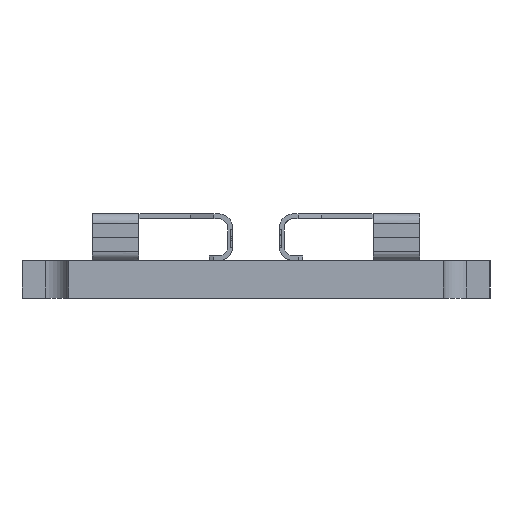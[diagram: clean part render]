
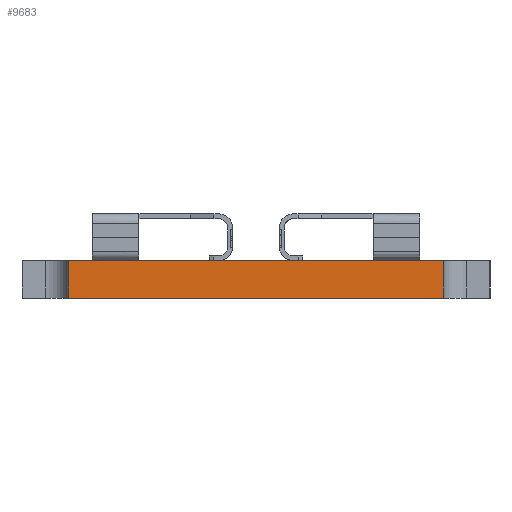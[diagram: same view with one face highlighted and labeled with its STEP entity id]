
A CAD part, left-side view. The second image highlights one B-rep face of the part: STEP entity #9683.
In plain terms, the highlighted planar face has unit normal (-1, 0, 0).
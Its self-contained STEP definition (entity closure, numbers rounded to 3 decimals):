
#9675=AXIS2_PLACEMENT_3D('Plane Axis2P3D',#9672,#9673,#9674) ;
#479=CARTESIAN_POINT('Vertex',(-9.6,-8.,-1.6)) ;
#482=CARTESIAN_POINT('Line Origine',(-9.6,0.,-1.6)) ;
#486=CARTESIAN_POINT('Vertex',(-9.6,8.,-1.6)) ;
#1460=CARTESIAN_POINT('Line Origine',(-9.6,8.,-0.8)) ;
#1464=CARTESIAN_POINT('Vertex',(-9.6,8.,0.)) ;
#1495=CARTESIAN_POINT('Vertex',(-9.6,-8.,0.)) ;
#1498=CARTESIAN_POINT('Line Origine',(-9.6,-8.,-0.8)) ;
#3692=CARTESIAN_POINT('Line Origine',(-9.6,0.,0.)) ;
#9672=CARTESIAN_POINT('Axis2P3D Location',(-9.6,10.,0.)) ;
#483=DIRECTION('Vector Direction',(0.,-1.,0.)) ;
#1461=DIRECTION('Vector Direction',(0.,0.,1.)) ;
#1499=DIRECTION('Vector Direction',(0.,0.,1.)) ;
#3693=DIRECTION('Vector Direction',(0.,-1.,0.)) ;
#9673=DIRECTION('Axis2P3D Direction',(1.,0.,0.)) ;
#9674=DIRECTION('Axis2P3D XDirection',(0.,-1.,0.)) ;
#484=VECTOR('Line Direction',#483,1.) ;
#1462=VECTOR('Line Direction',#1461,1.) ;
#1500=VECTOR('Line Direction',#1499,1.) ;
#3694=VECTOR('Line Direction',#3693,1.) ;
#9678=ORIENTED_EDGE('',*,*,#3696,.F.) ;
#9679=ORIENTED_EDGE('',*,*,#1466,.F.) ;
#9680=ORIENTED_EDGE('',*,*,#488,.T.) ;
#9681=ORIENTED_EDGE('',*,*,#1502,.T.) ;
#9683=ADVANCED_FACE('PartBody',(#9682),#9676,.F.) ;
#488=EDGE_CURVE('',#487,#480,#485,.T.) ;
#1466=EDGE_CURVE('',#487,#1465,#1463,.T.) ;
#1502=EDGE_CURVE('',#480,#1496,#1501,.T.) ;
#3696=EDGE_CURVE('',#1465,#1496,#3695,.T.) ;
#9677=EDGE_LOOP('',(#9678,#9679,#9680,#9681)) ;
#9682=FACE_OUTER_BOUND('',#9677,.T.) ;
#485=LINE('Line',#482,#484) ;
#1463=LINE('Line',#1460,#1462) ;
#1501=LINE('Line',#1498,#1500) ;
#3695=LINE('Line',#3692,#3694) ;
#9676=PLANE('',#9675) ;
#480=VERTEX_POINT('',#479) ;
#487=VERTEX_POINT('',#486) ;
#1465=VERTEX_POINT('',#1464) ;
#1496=VERTEX_POINT('',#1495) ;
